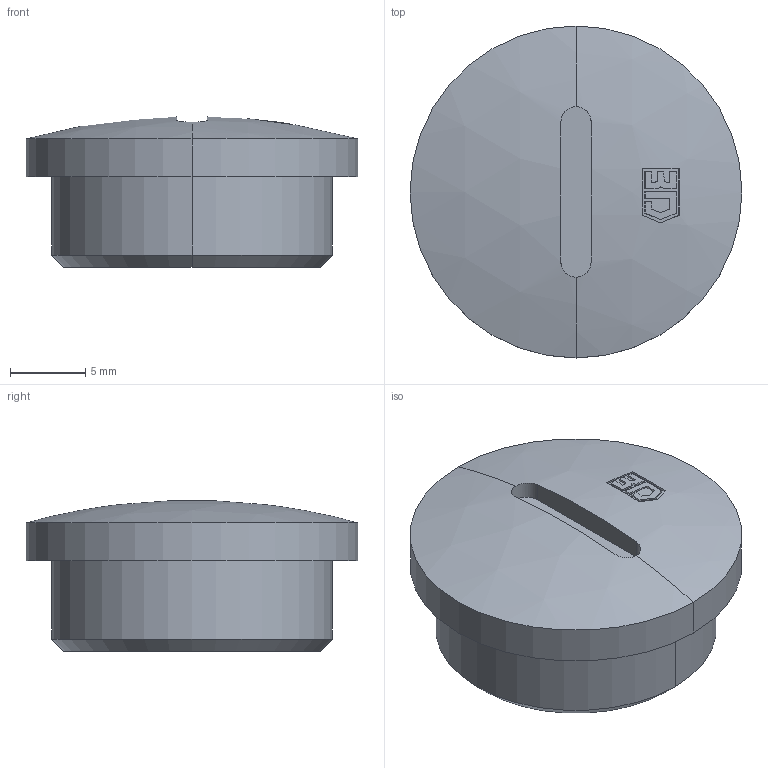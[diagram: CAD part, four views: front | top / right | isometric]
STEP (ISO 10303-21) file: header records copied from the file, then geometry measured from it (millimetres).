
FILE_DESCRIPTION (( 'STEP AP203' ), '1' );
FILE_NAME ('1011 PG.STEP', '2005-11-22T08:05:56', ( ' ' ), ( '' ), 'SwSTEP 2.0', 'SolidWorks 2005278', '' );
FILE_SCHEMA (( 'CONFIG_CONTROL_DESIGN' ));
Length unit declared in the file: millimetre
Products named in the file (1): 1011 PG
Bounding box: 22 x 22 x 9.96 mm (x, y, z)
Volume: 1741.4 mm3; surface area: 1606.8 mm2
Topology: 1 solids, 1 shells, 55 faces, 140 edges, 92 vertices
Faces by surface type: plane 40, cylinder 8, sphere 5, cone 2
Entity records: 1820 total; most frequent: CARTESIAN_POINT 359, DIRECTION 316, ORIENTED_EDGE 280, EDGE_CURVE 140, AXIS2_PLACEMENT_3D 134, VERTEX_POINT 92, CIRCLE 78, EDGE_LOOP 60
